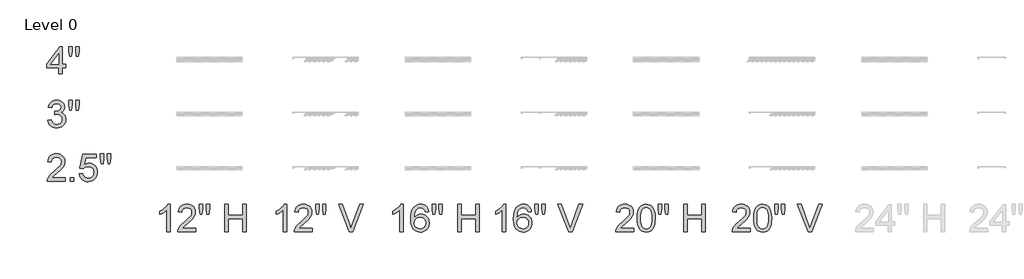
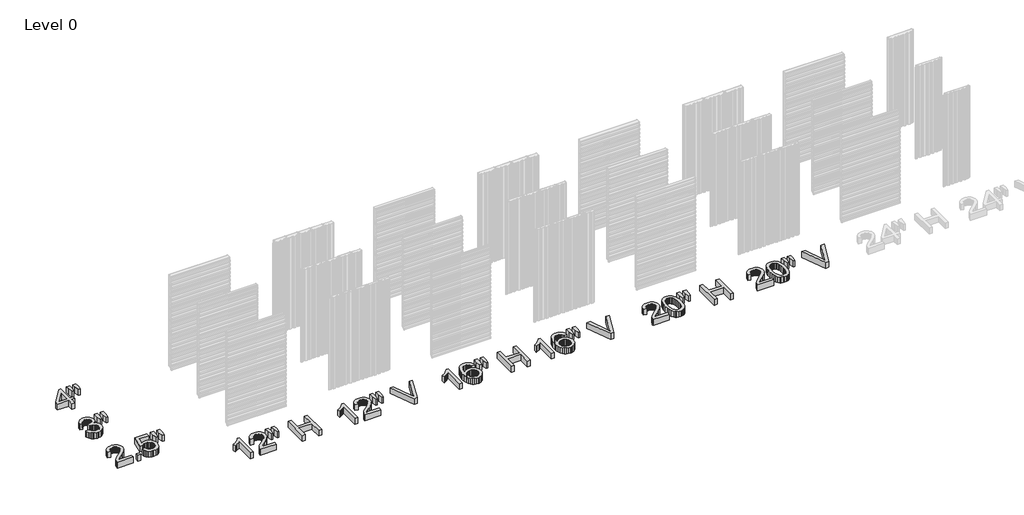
# One storey, part 2 of 4: 9 proxies.
"""IFC4 building model written with IfcOpenShell, lengths in millimetres."""

from ifc_helpers import new_model, si_unit, origin, origin_with_axes, place, context, project, spatial, polyline, outline, extrude, element, save

model = new_model("IFC4")

# Units and contexts
model_context = context("Model", 3, world=origin())
ifc_project = project(units=[si_unit("LENGTHUNIT", "METRE", prefix="MILLI")], contexts=[model_context])

# Site, building, storey
site = spatial("IfcSite", under=ifc_project)
building = spatial("IfcBuilding", under=site)
storey = spatial("IfcBuildingStorey", under=building, Name="Level 0", Elevation=0.0)

# Proxies
placement = place(None, origin())
element("IfcBuildingElementProxy", 1, Name="24\" Arial", ObjectType="24\" Arial", at=placement, inside=storey, context=model_context, shape_type="SweptSolid", body=[
    extrude(outline(polyline([(-32312.5108068, 10607.9692936), (-32312.5108068, 10531.8275201), (-32712.2551178, 10531.8275201), (-32710.5820807, 10558.633291), (-32704.0758257, 10584.3237038), (-32685.3006325, 10625.3502893), (-32657.8256469, 10665.149981), (-32618.0817231, 10706.8086027), (-32562.4997156, 10753.4119782), (-32480.3350088, 10826.3935707), (-32431.0361847, 10880.2653626), (-32416.657361, 10902.275094), (-32406.3867727, 10923.9873966), (-32400.2244197, 10945.4022704), (-32398.170302, 10966.5197154), (-32400.1082366, 10986.38703), (-32405.9220402, 11004.6463701), (-32415.6117129, 11021.2977357), (-32429.1772547, 11036.3411269), (-32445.8657989, 11048.8006053), (-32464.9244789, 11057.7002328), (-32486.3532947, 11063.0400093), (-32510.1522463, 11064.8199347), (-32535.2245649, 11063.0818352), (-32557.6479082, 11057.8675365), (-32577.4222763, 11049.1770386), (-32594.5476691, 11037.0103417), (-32608.401345, 11021.7764102), (-32618.3605626, 11003.8842088), (-32624.4253218, 10983.3337374), (-32626.5956226, 10960.1249962), (-32702.7373961, 10969.6427178), (-32696.1893151, 11008.9497931), (-32684.278221, 11043.2935251), (-32667.0041138, 11072.6739141), (-32644.3669935, 11097.0909598), (-32616.8873605, 11116.2844123), (-32585.0857153, 11129.9940212), (-32548.9620577, 11138.2197865), (-32508.5163878, 11140.9617083), (-32467.7082266, 11137.913063), (-32431.3893814, 11128.7671273), (-32399.5598522, 11113.5239012), (-32372.219639, 11092.1833846), (-32350.2610281, 11066.3256681), (-32334.5763061, 11037.5308421), (-32325.1654729, 11005.7989067), (-32322.0285285, 10971.1298619), (-32325.4117811, 10934.7134228), (-32335.561539, 10898.92902), (-32353.5745709, 10862.5311702), (-32380.5476454, 10824.2743905), (-32423.5446967, 10778.6004799), (-32489.6296589, 10719.9512379), (-32577.2224413, 10646.7093952), (-32611.575468, 10607.9692936), (-32312.5108068, 10607.9692936)])), origin_with_axes(), (0.0, 0.0, 1.0), 152.4),
    extrude(outline(polyline([(-32198.2981465, 10531.8275201), (-32198.2981465, 10607.9692936), (-32122.156373, 10607.9692936), (-32122.156373, 10531.8275201), (-32198.2981465, 10531.8275201)])), origin_with_axes(), (0.0, 0.0, 1.0), 152.4),
    extrude(outline(polyline([(-31998.425991, 10693.6287888), (-31922.2842175, 10703.1465105), (-31916.5958917, 10678.6690495), (-31908.3050638, 10657.4354214), (-31897.4117339, 10639.4456262), (-31883.915902, 10624.6996638), (-31867.845452, 10613.2161236), (-31849.2282678, 10605.0135949), (-31828.0643496, 10600.0920777), (-31804.3536972, 10598.4515719), (-31775.3543889, 10600.7334085), (-31749.7755119, 10607.5789183), (-31727.6170661, 10618.9881013), (-31708.8790515, 10634.9609575), (-31693.9797274, 10654.7074416), (-31683.3373531, 10677.4375084), (-31676.9519285, 10703.1511579), (-31674.8234536, 10731.84839), (-31676.817156, 10758.970179), (-31682.7982634, 10783.0805013), (-31692.7667756, 10804.179357), (-31706.7226927, 10822.2667461), (-31724.7124879, 10836.7756948), (-31746.7826346, 10847.1392297), (-31772.9331326, 10853.3573506), (-31803.163982, 10855.4300576), (-31840.1009215, 10852.1211621), (-31870.0111054, 10842.1944758), (-31893.8983562, 10826.9884283), (-31912.7664958, 10807.8414491), (-31988.9082694, 10817.3591708), (-31922.2842175, 11131.4439866), (-31627.2348451, 11131.4439866), (-31627.2348451, 11055.3022131), (-31860.7164553, 11055.3022131), (-31893.2849093, 10887.5523683), (-31866.4140758, 10906.8108833), (-31838.8926169, 10920.5669654), (-31810.7205325, 10928.8206147), (-31781.8978226, 10931.5718311), (-31744.8168161, 10928.1606945), (-31710.7565708, 10917.9272848), (-31679.7170869, 10900.8716018), (-31651.6983642, 10876.9936458), (-31628.5035649, 10847.7526766), (-31611.9358511, 10814.6079544), (-31601.9952228, 10777.5594791), (-31598.6816801, 10736.6072509), (-31601.6652628, 10697.1607559), (-31610.6160108, 10660.4654773), (-31625.5339242, 10626.5214152), (-31646.4190029, 10595.3285695), (-31678.0579918, 10563.3828572), (-31714.976342, 10540.5644912), (-31757.1740534, 10526.8734716), (-31804.651126, 10522.3097984), (-31843.9442593, 10525.2422605), (-31879.4358806, 10534.0396468), (-31911.1259901, 10548.7019574), (-31939.0145877, 10569.2291921), (-31962.2186816, 10594.5989395), (-31979.8552802, 10623.7887881), (-31991.9243833, 10656.7987379), (-31998.425991, 10693.6287888)])), origin_with_axes(), (0.0, 0.0, 1.0), 152.4),
    extrude(outline(polyline([(-31513.4683281, 10922.0541094), (-31532.0576283, 11039.6872009), (-31532.0576283, 11140.9617083), (-31455.9158547, 11140.9617083), (-31455.9158547, 11039.6872009), (-31472.5718677, 10922.0541094), (-31513.4683281, 10922.0541094)])), origin_with_axes(), (0.0, 0.0, 1.0), 152.4),
    extrude(outline(polyline([(-31361.6309242, 10922.0541094), (-31379.7740812, 11039.6872009), (-31379.7740812, 11140.9617083), (-31303.6323077, 11140.9617083), (-31303.6323077, 11039.6872009), (-31321.4780359, 10922.0541094), (-31361.6309242, 10922.0541094)])), origin_with_axes(), (0.0, 0.0, 1.0), 152.4),
])
element("IfcBuildingElementProxy", 2, Name="24\" Arial", ObjectType="24\" Arial", at=placement, inside=storey, context=model_context, shape_type="SweptSolid", body=[
    extrude(outline(polyline([(-32702.7373961, 11887.4287888), (-32626.5956226, 11896.9465105), (-32609.5492343, 11849.0976519), (-32598.0563995, 11831.0009682), (-32584.5838042, 11816.7894482), (-32568.8247249, 11806.0541273), (-32550.4724383, 11798.386041), (-32529.5269444, 11793.7851892), (-32505.988243, 11792.2515719), (-32478.4017216, 11794.3614575), (-32453.7894881, 11800.6911142), (-32432.1515427, 11811.2405421), (-32413.4878854, 11826.0097411), (-32398.4584362, 11843.8926478), (-32387.7231153, 11863.783199), (-32381.2819228, 11885.6813946), (-32379.1348586, 11909.5872347), (-32381.2633335, 11932.35448), (-32387.6487581, 11953.0676078), (-32398.2911325, 11971.7266178), (-32413.1904565, 11988.3315102), (-32431.3707921, 12001.9621145), (-32451.8562009, 12011.6982605), (-32474.6466829, 12017.5399481), (-32499.7422382, 12019.4871773), (-32523.7967926, 12017.4051757), (-32553.1307083, 12011.1591708), (-32544.6539874, 12087.3009443), (-32532.4594065, 12086.4086579), (-32486.8412638, 12091.8739122), (-32446.0563393, 12108.2696749), (-32429.2702012, 12120.6687381), (-32417.2801026, 12136.0049108), (-32410.0860434, 12154.2781929), (-32407.6880237, 12175.4885844), (-32409.4261233, 12192.7069236), (-32414.640422, 12208.3730564), (-32423.3309198, 12222.4869825), (-32435.4976168, 12235.0487021), (-32450.4062355, 12245.3611164), (-32467.3224987, 12252.7271266), (-32486.2464062, 12257.1467327), (-32507.1779582, 12258.6199347), (-32528.0537423, 12257.1327907), (-32547.107775, 12252.6713587), (-32564.3400563, 12245.2356386), (-32579.7505861, 12234.8256305), (-32592.9582839, 12221.4413344), (-32603.5820689, 12205.0827502), (-32611.6219413, 12185.7498781), (-32617.0779009, 12163.4427178), (-32693.2196744, 12172.9604395), (-32684.1945692, 12209.311816), (-32670.8009784, 12241.3318856), (-32653.0389021, 12269.0206482), (-32630.9083402, 12292.3781039), (-32605.1063916, 12310.9209308), (-32576.3301549, 12324.1658072), (-32544.5796302, 12332.112733), (-32509.8548175, 12334.7617083), (-32461.9873695, 12329.5381149), (-32418.0236746, 12313.8673349), (-32380.95661, 12289.1435656), (-32353.7790532, 12256.7610047), (-32337.1044509, 12219.4522793), (-32331.5462502, 12179.9500164), (-32336.8256114, 12143.1432021), (-32352.6636952, 12109.7568189), (-32378.8374298, 12081.3151897), (-32415.1237438, 12059.3426369), (-32389.749349, 12051.4050057), (-32367.4607781, 12040.0841219), (-32348.258031, 12025.3799854), (-32332.1411078, 12007.2925964), (-32319.3888479, 11986.2680979), (-32310.2800908, 11962.7526332), (-32304.8148365, 11936.7462022), (-32302.9930851, 11908.248805), (-32306.6365879, 11869.6202393), (-32317.5670964, 11834.0403187), (-32335.7846106, 11801.5090434), (-32361.2891305, 11772.0264134), (-32392.3611457, 11747.5628943), (-32427.2811461, 11730.0889522), (-32466.0491316, 11719.6045869), (-32508.6651022, 11716.1097984), (-32547.1821322, 11719.0933811), (-32582.2787309, 11728.0441291), (-32613.9548984, 11742.9620425), (-32642.2106347, 11763.8471213), (-32665.9026978, 11789.4724716), (-32683.8878457, 11818.6111996), (-32696.1660785, 11851.2633054), (-32702.7373961, 11887.4287888)])), origin_with_axes(), (0.0, 0.0, 1.0), 152.4),
    extrude(outline(polyline([(-32217.7797331, 12115.8541094), (-32236.3690333, 12233.4872009), (-32236.3690333, 12334.7617083), (-32160.2272598, 12334.7617083), (-32160.2272598, 12233.4872009), (-32176.8832727, 12115.8541094), (-32217.7797331, 12115.8541094)])), origin_with_axes(), (0.0, 0.0, 1.0), 152.4),
    extrude(outline(polyline([(-32065.9423293, 12115.8541094), (-32084.0854862, 12233.4872009), (-32084.0854862, 12334.7617083), (-32007.9437127, 12334.7617083), (-32007.9437127, 12233.4872009), (-32025.7894409, 12115.8541094), (-32065.9423293, 12115.8541094)])), origin_with_axes(), (0.0, 0.0, 1.0), 152.4),
])
element("IfcBuildingElementProxy", 3, Name="24\" Arial", ObjectType="24\" Arial", at=placement, inside=storey, context=model_context, shape_type="SweptSolid", body=[
    extrude(outline(polyline([(-32455.2766321, 12919.4275201), (-32455.2766321, 13062.1933455), (-32731.2905611, 13062.1933455), (-32731.2905611, 13138.335119), (-32436.2411888, 13519.0439866), (-32379.1348586, 13519.0439866), (-32379.1348586, 13138.335119), (-32302.9930851, 13138.335119), (-32302.9930851, 13062.1933455), (-32379.1348586, 13062.1933455), (-32379.1348586, 12919.4275201), (-32455.2766321, 12919.4275201)]), holes=[polyline([(-32455.2766321, 13138.335119), (-32455.2766321, 13373.601302), (-32637.6004883, 13138.335119), (-32455.2766321, 13138.335119)])]), origin_with_axes(), (0.0, 0.0, 1.0), 152.4),
    extrude(outline(polyline([(-32217.7797331, 13309.6541094), (-32236.3690333, 13427.2872009), (-32236.3690333, 13528.5617083), (-32160.2272598, 13528.5617083), (-32160.2272598, 13427.2872009), (-32176.8832727, 13309.6541094), (-32217.7797331, 13309.6541094)])), origin_with_axes(), (0.0, 0.0, 1.0), 152.4),
    extrude(outline(polyline([(-32065.9423293, 13309.6541094), (-32084.0854862, 13427.2872009), (-32084.0854862, 13528.5617083), (-32007.9437127, 13528.5617083), (-32007.9437127, 13427.2872009), (-32025.7894409, 13309.6541094), (-32065.9423293, 13309.6541094)])), origin_with_axes(), (0.0, 0.0, 1.0), 152.4),
])
element("IfcBuildingElementProxy", 4, Name="24\" Arial", ObjectType="24\" Arial", at=placement, inside=storey, context=model_context, shape_type="SweptSolid", body=[
    extrude(outline(polyline([(-29980.2489204, 9409.440542), (-30056.3906939, 9409.440542), (-30056.3906939, 9884.1369113), (-30088.1783972, 9858.4279091), (-30128.5171786, 9832.7560856), (-30170.8636044, 9810.3188003), (-30208.6742409, 9794.3134128), (-30208.6742409, 9866.2911831), (-30148.8724623, 9898.8224584), (-30097.0640827, 9937.5253814), (-30056.2233902, 9978.682092), (-30029.3246728, 10018.5747302), (-29980.2489204, 10018.5747302), (-29980.2489204, 9409.440542)])), origin_with_axes(), (0.0, 0.0, 1.0), 152.4),
    extrude(outline(polyline([(-29409.185619, 9485.5823155), (-29409.185619, 9409.440542), (-29808.92993, 9409.440542), (-29807.2568929, 9436.2463129), (-29800.7506379, 9461.9367257), (-29781.9754447, 9502.9633112), (-29754.500459, 9542.7630029), (-29714.7565353, 9584.4216246), (-29659.1745278, 9631.0250001), (-29577.009821, 9704.0065926), (-29527.7109969, 9757.8783845), (-29513.3321732, 9779.8881159), (-29503.0615849, 9801.6004185), (-29496.8992319, 9823.0152923), (-29494.8451142, 9844.1327373), (-29496.7830487, 9864.0000519), (-29502.5968524, 9882.259392), (-29512.2865251, 9898.9107576), (-29525.8520669, 9913.9541488), (-29542.5406111, 9926.4136272), (-29561.5992911, 9935.3132547), (-29583.0281069, 9940.6530311), (-29606.8270585, 9942.4329566), (-29631.8993771, 9940.6948571), (-29654.3227204, 9935.4805584), (-29674.0970885, 9926.7900605), (-29691.2224813, 9914.6233636), (-29705.0761572, 9899.3894321), (-29715.0353748, 9881.4972307), (-29721.100134, 9860.9467593), (-29723.2704348, 9837.7380181), (-29799.4122083, 9847.2557397), (-29792.8641273, 9886.562815), (-29780.9530332, 9920.906547), (-29763.678926, 9950.286936), (-29741.0418057, 9974.7039817), (-29713.5621727, 9993.8974342), (-29681.7605275, 10007.6070431), (-29645.6368699, 10015.8328084), (-29605.1912, 10018.5747302), (-29564.3830388, 10015.5260849), (-29528.0641936, 10006.3801492), (-29496.2346644, 9991.1369231), (-29468.8944512, 9969.7964065), (-29446.9358403, 9943.93869), (-29431.2511183, 9915.143864), (-29421.8402851, 9883.4119286), (-29418.7033407, 9848.7428838), (-29422.0865933, 9812.3264447), (-29432.2363512, 9776.5420419), (-29450.2493831, 9740.1441921), (-29477.2224576, 9701.8874124), (-29520.2195089, 9656.2135018), (-29586.3044711, 9597.5642598), (-29673.8972535, 9524.3224171), (-29708.2502802, 9485.5823155), (-29409.185619, 9485.5823155)])), origin_with_axes(), (0.0, 0.0, 1.0), 152.4),
    extrude(outline(polyline([(-29314.4545453, 9799.6671313), (-29333.0438455, 9917.3002228), (-29333.0438455, 10018.5747302), (-29256.902072, 10018.5747302), (-29256.902072, 9917.3002228), (-29273.5580849, 9799.6671313), (-29314.4545453, 9799.6671313)])), origin_with_axes(), (0.0, 0.0, 1.0), 152.4),
    extrude(outline(polyline([(-29162.6171415, 9799.6671313), (-29180.7602984, 9917.3002228), (-29180.7602984, 10018.5747302), (-29104.6185249, 10018.5747302), (-29104.6185249, 9917.3002228), (-29122.4642531, 9799.6671313), (-29162.6171415, 9799.6671313)])), origin_with_axes(), (0.0, 0.0, 1.0), 152.4),
    extrude(outline(polyline([(-28761.9805441, 9409.440542), (-28761.9805441, 10018.5747302), (-28685.8387706, 10018.5747302), (-28685.8387706, 9771.1139662), (-28362.2362331, 9771.1139662), (-28362.2362331, 10018.5747302), (-28286.0944596, 10018.5747302), (-28286.0944596, 9409.440542), (-28362.2362331, 9409.440542), (-28362.2362331, 9694.9721927), (-28685.8387706, 9694.9721927), (-28685.8387706, 9409.440542), (-28761.9805441, 9409.440542)])), origin_with_axes(), (0.0, 0.0, 1.0), 152.4),
])
element("IfcBuildingElementProxy", 5, Name="24\" Arial", ObjectType="24\" Arial", at=placement, inside=storey, context=model_context, shape_type="SweptSolid", body=[
    extrude(outline(polyline([(-27389.4489204, 9409.440542), (-27465.5906939, 9409.440542), (-27465.5906939, 9884.1369113), (-27497.3783972, 9858.4279091), (-27537.7171786, 9832.7560856), (-27580.0636044, 9810.3188003), (-27617.8742409, 9794.3134128), (-27617.8742409, 9866.2911831), (-27558.0724623, 9898.8224584), (-27506.2640827, 9937.5253814), (-27465.4233902, 9978.682092), (-27438.5246728, 10018.5747302), (-27389.4489204, 10018.5747302), (-27389.4489204, 9409.440542)])), origin_with_axes(), (0.0, 0.0, 1.0), 152.4),
    extrude(outline(polyline([(-26818.385619, 9485.5823155), (-26818.385619, 9409.440542), (-27218.12993, 9409.440542), (-27216.4568929, 9436.2463129), (-27209.9506379, 9461.9367257), (-27191.1754447, 9502.9633112), (-27163.700459, 9542.7630029), (-27123.9565353, 9584.4216246), (-27068.3745278, 9631.0250001), (-26986.209821, 9704.0065926), (-26936.9109969, 9757.8783845), (-26922.5321732, 9779.8881159), (-26912.2615849, 9801.6004185), (-26906.0992319, 9823.0152923), (-26904.0451142, 9844.1327373), (-26905.9830487, 9864.0000519), (-26911.7968524, 9882.259392), (-26921.4865251, 9898.9107576), (-26935.0520669, 9913.9541488), (-26951.7406111, 9926.4136272), (-26970.7992911, 9935.3132547), (-26992.2281069, 9940.6530311), (-27016.0270585, 9942.4329566), (-27041.0993771, 9940.6948571), (-27063.5227204, 9935.4805584), (-27083.2970885, 9926.7900605), (-27100.4224813, 9914.6233636), (-27114.2761572, 9899.3894321), (-27124.2353748, 9881.4972307), (-27130.300134, 9860.9467593), (-27132.4704348, 9837.7380181), (-27208.6122083, 9847.2557397), (-27202.0641273, 9886.562815), (-27190.1530332, 9920.906547), (-27172.878926, 9950.286936), (-27150.2418057, 9974.7039817), (-27122.7621727, 9993.8974342), (-27090.9605275, 10007.6070431), (-27054.8368699, 10015.8328084), (-27014.3912, 10018.5747302), (-26973.5830388, 10015.5260849), (-26937.2641936, 10006.3801492), (-26905.4346644, 9991.1369231), (-26878.0944512, 9969.7964065), (-26856.1358403, 9943.93869), (-26840.4511183, 9915.143864), (-26831.0402851, 9883.4119286), (-26827.9033407, 9848.7428838), (-26831.2865933, 9812.3264447), (-26841.4363512, 9776.5420419), (-26859.4493831, 9740.1441921), (-26886.4224576, 9701.8874124), (-26929.4195089, 9656.2135018), (-26995.5044711, 9597.5642598), (-27083.0972535, 9524.3224171), (-27117.4502802, 9485.5823155), (-26818.385619, 9485.5823155)])), origin_with_axes(), (0.0, 0.0, 1.0), 152.4),
    extrude(outline(polyline([(-26723.6545453, 9799.6671313), (-26742.2438455, 9917.3002228), (-26742.2438455, 10018.5747302), (-26666.102072, 10018.5747302), (-26666.102072, 9917.3002228), (-26682.7580849, 9799.6671313), (-26723.6545453, 9799.6671313)])), origin_with_axes(), (0.0, 0.0, 1.0), 152.4),
    extrude(outline(polyline([(-26571.8171415, 9799.6671313), (-26589.9602984, 9917.3002228), (-26589.9602984, 10018.5747302), (-26513.8185249, 10018.5747302), (-26513.8185249, 9917.3002228), (-26531.6642531, 9799.6671313), (-26571.8171415, 9799.6671313)])), origin_with_axes(), (0.0, 0.0, 1.0), 152.4),
    extrude(outline(polyline([(-25991.2361184, 9409.440542), (-26233.6405927, 10018.5747302), (-26152.1451007, 10018.5747302), (-25989.8976888, 9579.7185316), (-25957.0318061, 9480.8234547), (-25924.6120666, 9579.7185316), (-25761.9185114, 10018.5747302), (-25680.4230195, 10018.5747302), (-25912.5662001, 9409.440542), (-25991.2361184, 9409.440542)])), origin_with_axes(), (0.0, 0.0, 1.0), 152.4),
])
element("IfcBuildingElementProxy", 6, Name="24\" Arial", ObjectType="24\" Arial", at=placement, inside=storey, context=model_context, shape_type="SweptSolid", body=[
    extrude(outline(polyline([(-24798.6489204, 9409.440542), (-24874.7906939, 9409.440542), (-24874.7906939, 9884.1369113), (-24906.5783972, 9858.4279091), (-24946.9171786, 9832.7560856), (-24989.2636044, 9810.3188003), (-25027.0742409, 9794.3134128), (-25027.0742409, 9866.2911831), (-24967.2724623, 9898.8224584), (-24915.4640827, 9937.5253814), (-24874.6233902, 9978.682092), (-24847.7246728, 10018.5747302), (-24798.6489204, 10018.5747302), (-24798.6489204, 9409.440542)])), origin_with_axes(), (0.0, 0.0, 1.0), 152.4),
    extrude(outline(polyline([(-24227.585619, 9856.7734614), (-24303.7273925, 9847.2557397), (-24315.9963306, 9884.9920191), (-24332.5779864, 9910.7567891), (-24348.9458652, 9924.6151124), (-24367.1169061, 9934.5139148), (-24387.0911091, 9940.4531962), (-24408.8684743, 9942.4329566), (-24444.2625018, 9937.8228102), (-24477.5745278, 9923.9923709), (-24506.1834607, 9894.8629375), (-24529.550211, 9854.765817), (-24538.6822048, 9829.1915873), (-24545.3325269, 9798.0498622), (-24551.1881564, 9719.0639257), (-24520.6459363, 9754.6996142), (-24484.0436042, 9779.8137587), (-24443.4259833, 9794.7037881), (-24400.8378966, 9799.6671313), (-24364.2541539, 9796.274584), (-24330.4959848, 9786.0969422), (-24299.5633893, 9769.1342058), (-24271.4563674, 9745.3863748), (-24248.0989117, 9716.2662361), (-24231.4150148, 9683.1865764), (-24221.4046767, 9646.1473958), (-24218.0678973, 9605.1486943), (-24219.6386932, 9577.3902218), (-24224.3510808, 9550.6262768), (-24232.2050601, 9524.8568595), (-24243.2006311, 9500.0819697), (-24256.9474186, 9477.2264251), (-24273.0550472, 9457.2150435), (-24291.5235169, 9440.0478248), (-24312.3528278, 9425.724769), (-24335.0968366, 9414.4364164), (-24359.3094, 9406.3733075), (-24384.9905182, 9401.5354421), (-24412.1401911, 9399.9228203), (-24457.5306148, 9404.1983594), (-24498.524669, 9417.0249765), (-24535.1223538, 9438.4026717), (-24567.323669, 9468.331445), (-24593.5764082, 9508.0753687), (-24612.3283647, 9558.8985154), (-24623.5795387, 9620.800885), (-24627.32993, 9693.7824775), (-24623.1659267, 9775.6032822), (-24610.673917, 9845.4339883), (-24589.8539008, 9903.2745958), (-24576.3208903, 9927.6986126), (-24560.7058781, 9949.1251047), (-24529.1133625, 9979.5093158), (-24492.4831465, 10001.2123238), (-24450.8152301, 10014.2341286), (-24404.1096135, 10018.5747302), (-24369.0408987, 10015.8885763), (-24337.2996686, 10007.8301147), (-24308.8859233, 9994.3993453), (-24283.7996627, 9975.5962682), (-24262.7193963, 9952.0529195), (-24246.3236336, 9924.4013355), (-24234.6123745, 9892.6415161), (-24227.585619, 9856.7734614)]), holes=[polyline([(-24551.1881564, 9606.3384095), (-24546.7824923, 9572.5988297), (-24533.5654999, 9540.3835725), (-24513.0429125, 9512.6855152), (-24486.7204634, 9492.4975352), (-24454.9513494, 9480.1728292), (-24418.0887672, 9476.0645938), (-24391.6222511, 9478.1930687), (-24367.8418888, 9484.5784933), (-24346.7476804, 9495.2208677), (-24328.3396259, 9510.1201918), (-24313.4077706, 9528.6723133), (-24302.7421596, 9550.2730801), (-24296.342793, 9574.9224922), (-24294.2096708, 9602.6205494), (-24296.3149091, 9629.23578), (-24302.6306238, 9652.8674278), (-24313.156815, 9673.515493), (-24327.8934827, 9691.1799755), (-24346.3573051, 9705.3310802), (-24368.0649604, 9715.4390122), (-24393.0164486, 9721.5037714), (-24421.2117696, 9723.5253578), (-24447.325089, 9721.5037714), (-24471.3842908, 9715.4390122), (-24493.3893749, 9705.3310802), (-24513.3403413, 9691.1799755), (-24529.8987604, 9673.7478592), (-24541.7262027, 9653.7968928), (-24548.822668, 9631.3270762), (-24551.1881564, 9606.3384095)])]), origin_with_axes(), (0.0, 0.0, 1.0), 152.4),
    extrude(outline(polyline([(-24132.8545453, 9799.6671313), (-24151.4438455, 9917.3002228), (-24151.4438455, 10018.5747302), (-24075.302072, 10018.5747302), (-24075.302072, 9917.3002228), (-24091.9580849, 9799.6671313), (-24132.8545453, 9799.6671313)])), origin_with_axes(), (0.0, 0.0, 1.0), 152.4),
    extrude(outline(polyline([(-23981.0171415, 9799.6671313), (-23999.1602984, 9917.3002228), (-23999.1602984, 10018.5747302), (-23923.0185249, 10018.5747302), (-23923.0185249, 9917.3002228), (-23940.8642531, 9799.6671313), (-23981.0171415, 9799.6671313)])), origin_with_axes(), (0.0, 0.0, 1.0), 152.4),
    extrude(outline(polyline([(-23580.3805441, 9409.440542), (-23580.3805441, 10018.5747302), (-23504.2387706, 10018.5747302), (-23504.2387706, 9771.1139662), (-23180.6362331, 9771.1139662), (-23180.6362331, 10018.5747302), (-23104.4944596, 10018.5747302), (-23104.4944596, 9409.440542), (-23180.6362331, 9409.440542), (-23180.6362331, 9694.9721927), (-23504.2387706, 9694.9721927), (-23504.2387706, 9409.440542), (-23580.3805441, 9409.440542)])), origin_with_axes(), (0.0, 0.0, 1.0), 152.4),
])
element("IfcBuildingElementProxy", 7, Name="24\" Arial", ObjectType="24\" Arial", at=placement, inside=storey, context=model_context, shape_type="SweptSolid", body=[
    extrude(outline(polyline([(-22512.6489204, 9409.440542), (-22588.7906939, 9409.440542), (-22588.7906939, 9884.1369113), (-22620.5783972, 9858.4279091), (-22660.9171786, 9832.7560856), (-22703.2636044, 9810.3188003), (-22741.0742409, 9794.3134128), (-22741.0742409, 9866.2911831), (-22681.2724623, 9898.8224584), (-22629.4640827, 9937.5253814), (-22588.6233902, 9978.682092), (-22561.7246728, 10018.5747302), (-22512.6489204, 10018.5747302), (-22512.6489204, 9409.440542)])), origin_with_axes(), (0.0, 0.0, 1.0), 152.4),
    extrude(outline(polyline([(-21941.585619, 9856.7734614), (-22017.7273925, 9847.2557397), (-22029.9963306, 9884.9920191), (-22046.5779864, 9910.7567891), (-22062.9458652, 9924.6151124), (-22081.1169061, 9934.5139148), (-22101.0911091, 9940.4531962), (-22122.8684743, 9942.4329566), (-22158.2625018, 9937.8228102), (-22191.5745278, 9923.9923709), (-22220.1834607, 9894.8629375), (-22243.550211, 9854.765817), (-22252.6822048, 9829.1915873), (-22259.3325269, 9798.0498622), (-22265.1881564, 9719.0639257), (-22234.6459363, 9754.6996142), (-22198.0436042, 9779.8137587), (-22157.4259833, 9794.7037881), (-22114.8378966, 9799.6671313), (-22078.2541539, 9796.274584), (-22044.4959848, 9786.0969422), (-22013.5633893, 9769.1342058), (-21985.4563674, 9745.3863748), (-21962.0989117, 9716.2662361), (-21945.4150148, 9683.1865764), (-21935.4046767, 9646.1473958), (-21932.0678973, 9605.1486943), (-21933.6386932, 9577.3902218), (-21938.3510808, 9550.6262768), (-21946.2050601, 9524.8568595), (-21957.2006311, 9500.0819697), (-21970.9474186, 9477.2264251), (-21987.0550472, 9457.2150435), (-22005.5235169, 9440.0478248), (-22026.3528278, 9425.724769), (-22049.0968366, 9414.4364164), (-22073.3094, 9406.3733075), (-22098.9905182, 9401.5354421), (-22126.1401911, 9399.9228203), (-22171.5306148, 9404.1983594), (-22212.524669, 9417.0249765), (-22249.1223538, 9438.4026717), (-22281.323669, 9468.331445), (-22307.5764082, 9508.0753687), (-22326.3283647, 9558.8985154), (-22337.5795387, 9620.800885), (-22341.32993, 9693.7824775), (-22337.1659267, 9775.6032822), (-22324.673917, 9845.4339883), (-22303.8539008, 9903.2745958), (-22290.3208903, 9927.6986126), (-22274.7058781, 9949.1251047), (-22243.1133625, 9979.5093158), (-22206.4831465, 10001.2123238), (-22164.8152301, 10014.2341286), (-22118.1096135, 10018.5747302), (-22083.0408987, 10015.8885763), (-22051.2996686, 10007.8301147), (-22022.8859233, 9994.3993453), (-21997.7996627, 9975.5962682), (-21976.7193963, 9952.0529195), (-21960.3236336, 9924.4013355), (-21948.6123745, 9892.6415161), (-21941.585619, 9856.7734614)]), holes=[polyline([(-22265.1881564, 9606.3384095), (-22260.7824923, 9572.5988297), (-22247.5654999, 9540.3835725), (-22227.0429125, 9512.6855152), (-22200.7204634, 9492.4975352), (-22168.9513494, 9480.1728292), (-22132.0887672, 9476.0645938), (-22105.6222511, 9478.1930687), (-22081.8418888, 9484.5784933), (-22060.7476804, 9495.2208677), (-22042.3396259, 9510.1201918), (-22027.4077706, 9528.6723133), (-22016.7421596, 9550.2730801), (-22010.342793, 9574.9224922), (-22008.2096708, 9602.6205494), (-22010.3149091, 9629.23578), (-22016.6306238, 9652.8674278), (-22027.156815, 9673.515493), (-22041.8934827, 9691.1799755), (-22060.3573051, 9705.3310802), (-22082.0649604, 9715.4390122), (-22107.0164486, 9721.5037714), (-22135.2117696, 9723.5253578), (-22161.325089, 9721.5037714), (-22185.3842908, 9715.4390122), (-22207.3893749, 9705.3310802), (-22227.3403413, 9691.1799755), (-22243.8987604, 9673.7478592), (-22255.7262027, 9653.7968928), (-22262.822668, 9631.3270762), (-22265.1881564, 9606.3384095)])]), origin_with_axes(), (0.0, 0.0, 1.0), 152.4),
    extrude(outline(polyline([(-21846.8545453, 9799.6671313), (-21865.4438455, 9917.3002228), (-21865.4438455, 10018.5747302), (-21789.302072, 10018.5747302), (-21789.302072, 9917.3002228), (-21805.9580849, 9799.6671313), (-21846.8545453, 9799.6671313)])), origin_with_axes(), (0.0, 0.0, 1.0), 152.4),
    extrude(outline(polyline([(-21695.0171415, 9799.6671313), (-21713.1602984, 9917.3002228), (-21713.1602984, 10018.5747302), (-21637.0185249, 10018.5747302), (-21637.0185249, 9917.3002228), (-21654.8642531, 9799.6671313), (-21695.0171415, 9799.6671313)])), origin_with_axes(), (0.0, 0.0, 1.0), 152.4),
    extrude(outline(polyline([(-21114.4361184, 9409.440542), (-21356.8405927, 10018.5747302), (-21275.3451007, 10018.5747302), (-21113.0976888, 9579.7185316), (-21080.2318061, 9480.8234547), (-21047.8120666, 9579.7185316), (-20885.1185114, 10018.5747302), (-20803.6230195, 10018.5747302), (-21035.7662001, 9409.440542), (-21114.4361184, 9409.440542)])), origin_with_axes(), (0.0, 0.0, 1.0), 152.4),
])
element("IfcBuildingElementProxy", 8, Name="24\" Arial", ObjectType="24\" Arial", at=placement, inside=storey, context=model_context, shape_type="SweptSolid", body=[
    extrude(outline(polyline([(-19664.7539818, 9485.5823155), (-19664.7539818, 9409.440542), (-20064.4982928, 9409.440542), (-20062.8252557, 9436.2463129), (-20056.3190007, 9461.9367257), (-20037.5438075, 9502.9633112), (-20010.0688218, 9542.7630029), (-19970.3248981, 9584.4216246), (-19914.7428905, 9631.0250001), (-19832.5781838, 9704.0065926), (-19783.2793597, 9757.8783845), (-19768.900536, 9779.8881159), (-19758.6299477, 9801.6004185), (-19752.4675947, 9823.0152923), (-19750.413477, 9844.1327373), (-19752.3514115, 9864.0000519), (-19758.1652152, 9882.259392), (-19767.8548879, 9898.9107576), (-19781.4204297, 9913.9541488), (-19798.1089739, 9926.4136272), (-19817.1676539, 9935.3132547), (-19838.5964697, 9940.6530311), (-19862.3954213, 9942.4329566), (-19887.4677399, 9940.6948571), (-19909.8910832, 9935.4805584), (-19929.6654513, 9926.7900605), (-19946.790844, 9914.6233636), (-19960.64452, 9899.3894321), (-19970.6037376, 9881.4972307), (-19976.6684968, 9860.9467593), (-19978.8387975, 9837.7380181), (-20054.9805711, 9847.2557397), (-20048.4324901, 9886.562815), (-20036.521396, 9920.906547), (-20019.2472888, 9950.286936), (-19996.6101685, 9974.7039817), (-19969.1305355, 9993.8974342), (-19937.3288903, 10007.6070431), (-19901.2052327, 10015.8328084), (-19860.7595628, 10018.5747302), (-19819.9514016, 10015.5260849), (-19783.6325564, 10006.3801492), (-19751.8030272, 9991.1369231), (-19724.462814, 9969.7964065), (-19702.5042031, 9943.93869), (-19686.8194811, 9915.143864), (-19677.4086479, 9883.4119286), (-19674.2717035, 9848.7428838), (-19677.6549561, 9812.3264447), (-19687.804714, 9776.5420419), (-19705.8177459, 9740.1441921), (-19732.7908204, 9701.8874124), (-19775.7878717, 9656.2135018), (-19841.8728339, 9597.5642598), (-19929.4656163, 9524.3224171), (-19963.818643, 9485.5823155), (-19664.7539818, 9485.5823155)])), origin_with_axes(), (0.0, 0.0, 1.0), 152.4),
    extrude(outline(polyline([(-19588.6122083, 9709.1000608), (-19583.0168289, 9806.6009403), (-19576.0226047, 9847.9481912), (-19566.2306909, 9884.3599829), (-19553.6829132, 9916.1337442), (-19538.4210978, 9943.5669039), (-19520.4452445, 9966.6594621), (-19499.7553534, 9985.4114186), (-19476.2817146, 9999.9203674), (-19449.9546183, 10010.2839023), (-19420.7740643, 10016.5020232), (-19388.7400528, 10018.5747302), (-19341.8206591, 10013.6671549), (-19299.8088408, 9998.9444292), (-19264.6750634, 9974.9828212), (-19238.389793, 9942.3585994), (-19218.5364204, 9901.3506033), (-19202.6983366, 9852.2376722), (-19192.3255071, 9789.8705701), (-19188.8678973, 9709.1000608), (-19194.4075088, 9612.1568604), (-19201.3320231, 9570.9490293), (-19211.0263431, 9534.5837108), (-19223.4765269, 9502.7960075), (-19238.6686325, 9475.3210218), (-19256.6026598, 9452.1587538), (-19277.2786089, 9433.3092034), (-19300.7801317, 9418.7026608), (-19327.1908799, 9408.2694161), (-19356.5108536, 9402.0094693), (-19388.7400528, 9399.9228203), (-19430.677514, 9403.5477339), (-19467.8561143, 9414.4224745), (-19500.2758538, 9432.5470421), (-19527.9367325, 9457.9214369), (-19554.4822532, 9503.7905351), (-19573.4433393, 9560.9433384), (-19584.819991, 9629.379847), (-19588.6122083, 9709.1000608)]), holes=[polyline([(-19512.4704348, 9709.2487752), (-19510.2397187, 9643.0569246), (-19503.5475707, 9589.4779142), (-19492.3939906, 9548.511744), (-19476.7789784, 9520.1584139), (-19457.8922494, 9500.8673676), (-19436.9235188, 9487.0880488), (-19413.8727866, 9478.8204576), (-19388.7400528, 9476.0645938), (-19363.607319, 9478.8297522), (-19340.5565867, 9487.1252274), (-19319.5878561, 9500.9510195), (-19300.7011272, 9520.3071283), (-19285.086115, 9548.7069316), (-19273.9325349, 9589.6638072), (-19267.2403868, 9643.1777551), (-19265.0096708, 9709.2487752), (-19267.1660296, 9773.6885843), (-19273.6351061, 9826.3241877), (-19284.4169002, 9867.1555856), (-19299.5114119, 9896.1827778), (-19318.0821228, 9916.417231), (-19339.2925143, 9930.8704119), (-19363.1425864, 9939.5423205), (-19389.6323392, 9942.4329566), (-19414.6349479, 9939.8862225), (-19437.2953048, 9932.2460201), (-19457.6134099, 9919.5123495), (-19475.5892632, 9901.6852107), (-19491.7247758, 9870.0834004), (-19503.2501419, 9827.4767244), (-19510.1653615, 9773.8651827), (-19512.4704348, 9709.2487752)])]), origin_with_axes(), (0.0, 0.0, 1.0), 152.4),
    extrude(outline(polyline([(-19103.6545453, 9799.6671313), (-19122.2438455, 9917.3002228), (-19122.2438455, 10018.5747302), (-19046.102072, 10018.5747302), (-19046.102072, 9917.3002228), (-19062.7580849, 9799.6671313), (-19103.6545453, 9799.6671313)])), origin_with_axes(), (0.0, 0.0, 1.0), 152.4),
    extrude(outline(polyline([(-18951.8171415, 9799.6671313), (-18969.9602984, 9917.3002228), (-18969.9602984, 10018.5747302), (-18893.8185249, 10018.5747302), (-18893.8185249, 9917.3002228), (-18911.6642531, 9799.6671313), (-18951.8171415, 9799.6671313)])), origin_with_axes(), (0.0, 0.0, 1.0), 152.4),
    extrude(outline(polyline([(-18551.1805441, 9409.440542), (-18551.1805441, 10018.5747302), (-18475.0387706, 10018.5747302), (-18475.0387706, 9771.1139662), (-18151.4362331, 9771.1139662), (-18151.4362331, 10018.5747302), (-18075.2944596, 10018.5747302), (-18075.2944596, 9409.440542), (-18151.4362331, 9409.440542), (-18151.4362331, 9694.9721927), (-18475.0387706, 9694.9721927), (-18475.0387706, 9409.440542), (-18551.1805441, 9409.440542)])), origin_with_axes(), (0.0, 0.0, 1.0), 152.4),
])
element("IfcBuildingElementProxy", 9, Name="24\" Arial", ObjectType="24\" Arial", at=placement, inside=storey, context=model_context, shape_type="SweptSolid", body=[
    extrude(outline(polyline([(-17073.9539818, 9485.5823155), (-17073.9539818, 9409.440542), (-17473.6982928, 9409.440542), (-17472.0252557, 9436.2463129), (-17465.5190007, 9461.9367257), (-17446.7438075, 9502.9633112), (-17419.2688218, 9542.7630029), (-17379.5248981, 9584.4216246), (-17323.9428905, 9631.0250001), (-17241.7781838, 9704.0065926), (-17192.4793597, 9757.8783845), (-17178.100536, 9779.8881159), (-17167.8299477, 9801.6004185), (-17161.6675947, 9823.0152923), (-17159.613477, 9844.1327373), (-17161.5514115, 9864.0000519), (-17167.3652152, 9882.259392), (-17177.0548879, 9898.9107576), (-17190.6204297, 9913.9541488), (-17207.3089739, 9926.4136272), (-17226.3676539, 9935.3132547), (-17247.7964697, 9940.6530311), (-17271.5954213, 9942.4329566), (-17296.6677399, 9940.6948571), (-17319.0910832, 9935.4805584), (-17338.8654513, 9926.7900605), (-17355.990844, 9914.6233636), (-17369.84452, 9899.3894321), (-17379.8037376, 9881.4972307), (-17385.8684968, 9860.9467593), (-17388.0387975, 9837.7380181), (-17464.1805711, 9847.2557397), (-17457.6324901, 9886.562815), (-17445.721396, 9920.906547), (-17428.4472888, 9950.286936), (-17405.8101685, 9974.7039817), (-17378.3305355, 9993.8974342), (-17346.5288903, 10007.6070431), (-17310.4052327, 10015.8328084), (-17269.9595628, 10018.5747302), (-17229.1514016, 10015.5260849), (-17192.8325564, 10006.3801492), (-17161.0030272, 9991.1369231), (-17133.662814, 9969.7964065), (-17111.7042031, 9943.93869), (-17096.0194811, 9915.143864), (-17086.6086479, 9883.4119286), (-17083.4717035, 9848.7428838), (-17086.8549561, 9812.3264447), (-17097.004714, 9776.5420419), (-17115.0177459, 9740.1441921), (-17141.9908204, 9701.8874124), (-17184.9878717, 9656.2135018), (-17251.0728339, 9597.5642598), (-17338.6656163, 9524.3224171), (-17373.018643, 9485.5823155), (-17073.9539818, 9485.5823155)])), origin_with_axes(), (0.0, 0.0, 1.0), 152.4),
    extrude(outline(polyline([(-16997.8122083, 9709.1000608), (-16992.2168289, 9806.6009403), (-16985.2226047, 9847.9481912), (-16975.4306909, 9884.3599829), (-16962.8829132, 9916.1337442), (-16947.6210978, 9943.5669039), (-16929.6452445, 9966.6594621), (-16908.9553534, 9985.4114186), (-16885.4817146, 9999.9203674), (-16859.1546183, 10010.2839023), (-16829.9740643, 10016.5020232), (-16797.9400528, 10018.5747302), (-16751.0206591, 10013.6671549), (-16709.0088408, 9998.9444292), (-16673.8750634, 9974.9828212), (-16647.589793, 9942.3585994), (-16627.7364204, 9901.3506033), (-16611.8983366, 9852.2376722), (-16601.5255071, 9789.8705701), (-16598.0678973, 9709.1000608), (-16603.6075088, 9612.1568604), (-16610.5320231, 9570.9490293), (-16620.2263431, 9534.5837108), (-16632.6765269, 9502.7960075), (-16647.8686325, 9475.3210218), (-16665.8026598, 9452.1587538), (-16686.4786089, 9433.3092034), (-16709.9801317, 9418.7026608), (-16736.3908799, 9408.2694161), (-16765.7108536, 9402.0094693), (-16797.9400528, 9399.9228203), (-16839.877514, 9403.5477339), (-16877.0561143, 9414.4224745), (-16909.4758538, 9432.5470421), (-16937.1367325, 9457.9214369), (-16963.6822532, 9503.7905351), (-16982.6433393, 9560.9433384), (-16994.019991, 9629.379847), (-16997.8122083, 9709.1000608)]), holes=[polyline([(-16921.6704348, 9709.2487752), (-16919.4397187, 9643.0569246), (-16912.7475707, 9589.4779142), (-16901.5939906, 9548.511744), (-16885.9789784, 9520.1584139), (-16867.0922494, 9500.8673676), (-16846.1235188, 9487.0880488), (-16823.0727866, 9478.8204576), (-16797.9400528, 9476.0645938), (-16772.807319, 9478.8297522), (-16749.7565867, 9487.1252274), (-16728.7878561, 9500.9510195), (-16709.9011272, 9520.3071283), (-16694.286115, 9548.7069316), (-16683.1325349, 9589.6638072), (-16676.4403868, 9643.1777551), (-16674.2096708, 9709.2487752), (-16676.3660296, 9773.6885843), (-16682.8351061, 9826.3241877), (-16693.6169002, 9867.1555856), (-16708.7114119, 9896.1827778), (-16727.2821228, 9916.417231), (-16748.4925143, 9930.8704119), (-16772.3425864, 9939.5423205), (-16798.8323392, 9942.4329566), (-16823.8349479, 9939.8862225), (-16846.4953048, 9932.2460201), (-16866.8134099, 9919.5123495), (-16884.7892632, 9901.6852107), (-16900.9247758, 9870.0834004), (-16912.4501419, 9827.4767244), (-16919.3653615, 9773.8651827), (-16921.6704348, 9709.2487752)])]), origin_with_axes(), (0.0, 0.0, 1.0), 152.4),
    extrude(outline(polyline([(-16512.8545453, 9799.6671313), (-16531.4438455, 9917.3002228), (-16531.4438455, 10018.5747302), (-16455.302072, 10018.5747302), (-16455.302072, 9917.3002228), (-16471.9580849, 9799.6671313), (-16512.8545453, 9799.6671313)])), origin_with_axes(), (0.0, 0.0, 1.0), 152.4),
    extrude(outline(polyline([(-16361.0171415, 9799.6671313), (-16379.1602984, 9917.3002228), (-16379.1602984, 10018.5747302), (-16303.0185249, 10018.5747302), (-16303.0185249, 9917.3002228), (-16320.8642531, 9799.6671313), (-16361.0171415, 9799.6671313)])), origin_with_axes(), (0.0, 0.0, 1.0), 152.4),
    extrude(outline(polyline([(-15780.4361184, 9409.440542), (-16022.8405927, 10018.5747302), (-15941.3451007, 10018.5747302), (-15779.0976888, 9579.7185316), (-15746.2318061, 9480.8234547), (-15713.8120666, 9579.7185316), (-15551.1185114, 10018.5747302), (-15469.6230195, 10018.5747302), (-15701.7662001, 9409.440542), (-15780.4361184, 9409.440542)])), origin_with_axes(), (0.0, 0.0, 1.0), 152.4),
])

save(model, "model.ifc")
